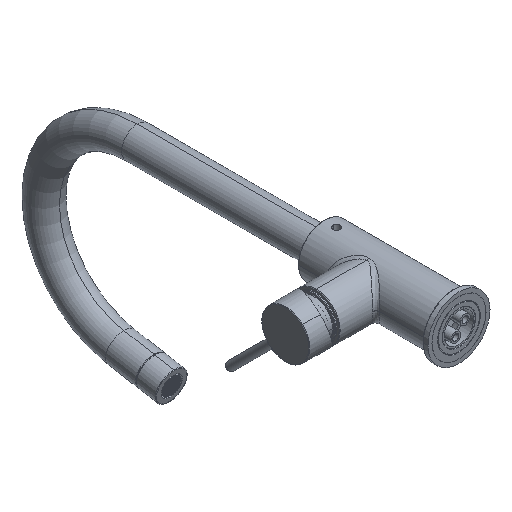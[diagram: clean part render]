
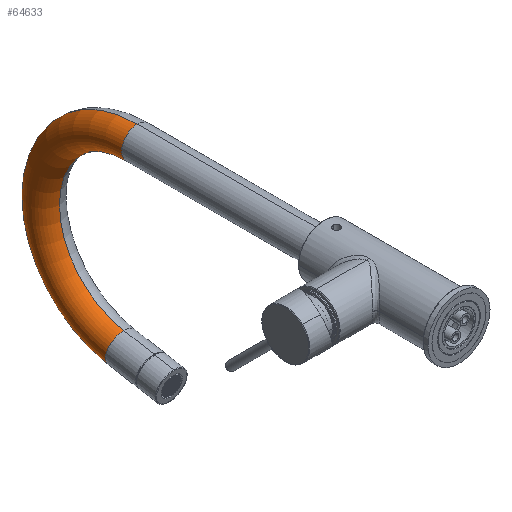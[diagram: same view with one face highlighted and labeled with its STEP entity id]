
A CAD part, isometric view. The second image highlights one B-rep face of the part: STEP entity #64633.
In plain terms, the highlighted toroidal (fillet/blend) face has major radius 90 mm and minor radius 15 mm.
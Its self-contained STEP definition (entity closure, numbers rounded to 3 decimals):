
#20096=CARTESIAN_POINT('',(0.,305.,-90.));
#20097=DIRECTION('',(-1.,0.,0.));
#20098=DIRECTION('',(0.,0.,1.));
#20099=AXIS2_PLACEMENT_3D('',#20096,#20097,#20098);
#20645=CARTESIAN_POINT('',(0.,305.,0.));
#20646=DIRECTION('',(0.,1.,0.));
#20647=DIRECTION('',(0.,0.,-1.));
#20648=AXIS2_PLACEMENT_3D('',#20645,#20646,#20647);
#20650=CARTESIAN_POINT('',(0.,305.,-90.));
#20651=DIRECTION('',(-1.,0.,0.));
#20652=DIRECTION('',(0.,0.,1.));
#20653=AXIS2_PLACEMENT_3D('',#20650,#20651,#20652);
#20655=CARTESIAN_POINT('',(0.,320.628,
-178.633));
#20656=DIRECTION('',(0.,-0.985,-0.174));
#20657=DIRECTION('',(0.,-0.174,0.985));
#20658=AXIS2_PLACEMENT_3D('',#20655,#20656,#20657);
#51940=CARTESIAN_POINT('',(0.,305.,15.));
#51941=CARTESIAN_POINT('',(0.,305.,-15.));
#51942=VERTEX_POINT('',#51940);
#51943=VERTEX_POINT('',#51941);
#51952=CARTESIAN_POINT('',(0.,323.233,
-193.405));
#51953=CARTESIAN_POINT('',(0.,318.024,
-163.861));
#51954=VERTEX_POINT('',#51952);
#51955=VERTEX_POINT('',#51953);
#64621=CARTESIAN_POINT('',(0.,305.,-90.));
#64622=DIRECTION('',(-1.,0.,0.));
#64623=DIRECTION('',(0.,0.,-1.));
#64624=AXIS2_PLACEMENT_3D('',#64621,#64622,#64623);
#64625=TOROIDAL_SURFACE('',#64624,90.,15.);
#64626=ORIENTED_EDGE('',*,*,#64615,.F.);
#64627=ORIENTED_EDGE('',*,*,#64019,.T.);
#64629=ORIENTED_EDGE('',*,*,#64628,.T.);
#64630=ORIENTED_EDGE('',*,*,#64016,.F.);
#64631=EDGE_LOOP('',(#64626,#64627,#64629,#64630));
#64632=FACE_OUTER_BOUND('',#64631,.F.);
#64633=ADVANCED_FACE('',(#64632),#64625,.T.);
#20100=CIRCLE('',#20099,105.);
#20649=CIRCLE('',#20648,15.);
#20654=CIRCLE('',#20653,75.);
#20659=CIRCLE('',#20658,15.);
#64016=EDGE_CURVE('',#51942,#51954,#20100,.T.);
#64019=EDGE_CURVE('',#51943,#51955,#20654,.T.);
#64615=EDGE_CURVE('',#51943,#51942,#20649,.T.);
#64628=EDGE_CURVE('',#51955,#51954,#20659,.T.);
